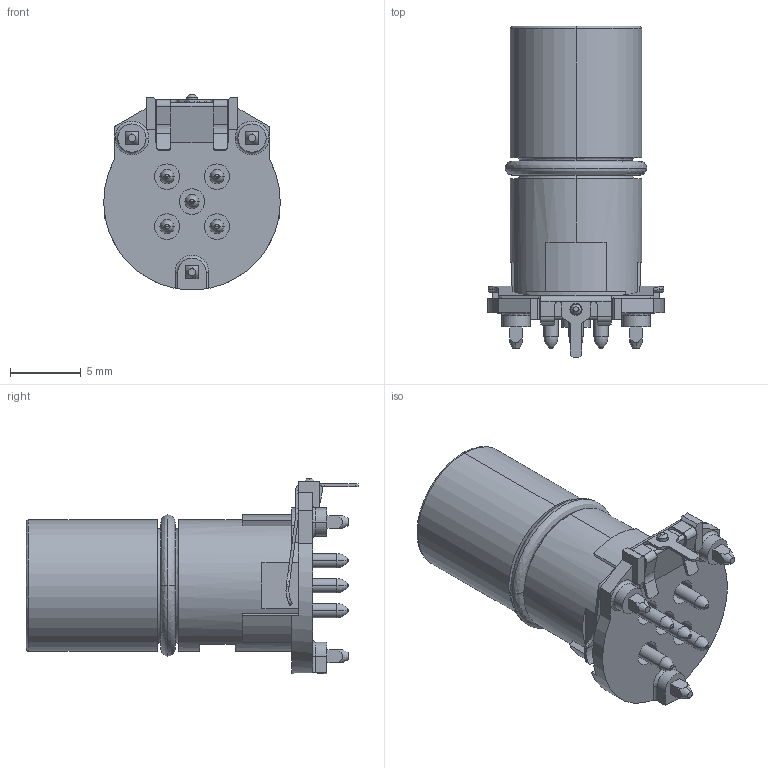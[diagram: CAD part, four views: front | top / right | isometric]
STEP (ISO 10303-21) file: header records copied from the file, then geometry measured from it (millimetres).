
FILE_DESCRIPTION (( 'STEP AP203' ), '1' );
FILE_NAME ('862-B05-113R001.STEP', '2025-08-27T15:09:39', ( '' ), ( '' ), 'SwSTEP 2.0', 'SolidWorks 2020', '' );
FILE_SCHEMA (( 'CONFIG_CONTROL_DESIGN' ));
Length unit declared in the file: millimetre
Products named in the file (1): 862-B05-113R001
Bounding box: 12.5 x 23.5 x 13.84 mm (x, y, z)
Volume: 1046.6 mm3; surface area: 1941.6 mm2
Topology: 2 solids, 2 shells, 407 faces, 994 edges, 627 vertices
Faces by surface type: plane 167, cylinder 157, cone 38, torus 30, bspline 15
Entity records: 12767 total; most frequent: CARTESIAN_POINT 2969, DIRECTION 2121, ORIENTED_EDGE 1988, EDGE_CURVE 994, AXIS2_PLACEMENT_3D 807, VERTEX_POINT 627, LINE 507, VECTOR 507
